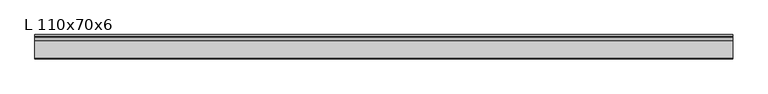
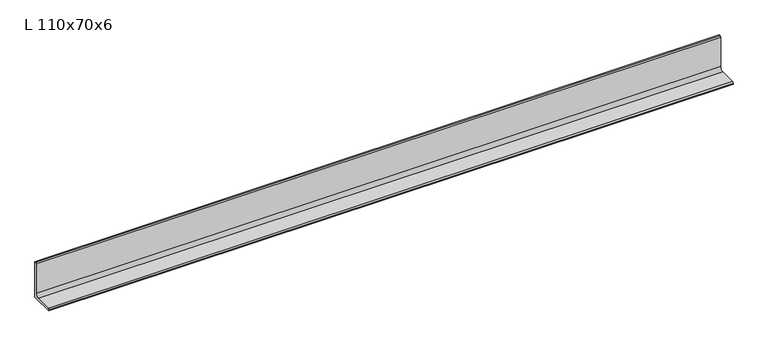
"""IFC4 building model written with IfcOpenShell, lengths in millimetres: beam geometry, Уголок (ГОСТ 8510-86) Балки : L 110x70x6."""

from ifc_helpers import new_model, si_unit, point, frame, frame_2d, origin, place, context, project, spatial, polyline, circle_curve, trimmed, segment, composite_curve, outline, extrude, source, transform, mapped, element, save


def l_110x70x6_3cb941dd(model_context):
    return source(origin(), model_context, "Body", "SweptSolid", [
        extrude(outline(composite_curve([segment(polyline([(15.8, -35.5), (-54.2, -35.5), (-54.2, -32.3)]), True, "CONTINUOUS"), segment(trimmed(circle_curve(frame_2d((-50.9, -32.3)), 3.3), [point((-54.2, -32.3))], [point((-50.9, -29.0))], False, "CARTESIAN"), True, "CONTINUOUS"), segment(polyline([(-50.9, -29.0), (-0.7, -29.0)]), True, "CONTINUOUS"), segment(trimmed(circle_curve(frame_2d((-0.7, -19.0)), 10.0), [point((-0.7, -29.0))], [point((9.3, -19.0))], True, "CARTESIAN"), True, "CONTINUOUS"), segment(polyline([(9.3, -19.0), (9.3, 71.2)]), True, "CONTINUOUS"), segment(trimmed(circle_curve(frame_2d((12.6, 71.2)), 3.3), [point((9.3, 71.2))], [point((12.6, 74.5))], False, "CARTESIAN"), True, "CONTINUOUS"), segment(polyline([(12.6, 74.5), (15.8, 74.5), (15.8, -35.5)]), True, "CONTINUOUS")], self_intersect=False)), frame((-1104.0, 0.0, 0.0), z_axis=(1.0, 0.0, 0.0), x_axis=(0.0, 1.0, 0.0)), (0.0, 0.0, 1.0), 2000.0),
    ])


if __name__ == "__main__":
    model = new_model("IFC4")
    model_context = context("Model", 3, world=origin())
    ifc_project = project(units=[si_unit("LENGTHUNIT", "METRE", prefix="MILLI")], contexts=[model_context])
    site = spatial("IfcSite", under=ifc_project)
    building = spatial("IfcBuilding", under=site)
    placement = place(None, origin())
    l_110x70x6_shape = l_110x70x6_3cb941dd(model_context)
    element("IfcBeam", 1, ObjectType="Уголок (ГОСТ 8510-86) Балки : L 110x70x6", at=placement, inside=building, context=model_context, shape_type="MappedRepresentation", body=[
        mapped(l_110x70x6_shape, transform((0.0, 0.0, 0.0), x_axis=(1.0, 0.0, 0.0), y_axis=(0.0, 1.0, 0.0), z_axis=(0.0, 0.0, 1.0))),
    ])
    save(model, "model.ifc")
